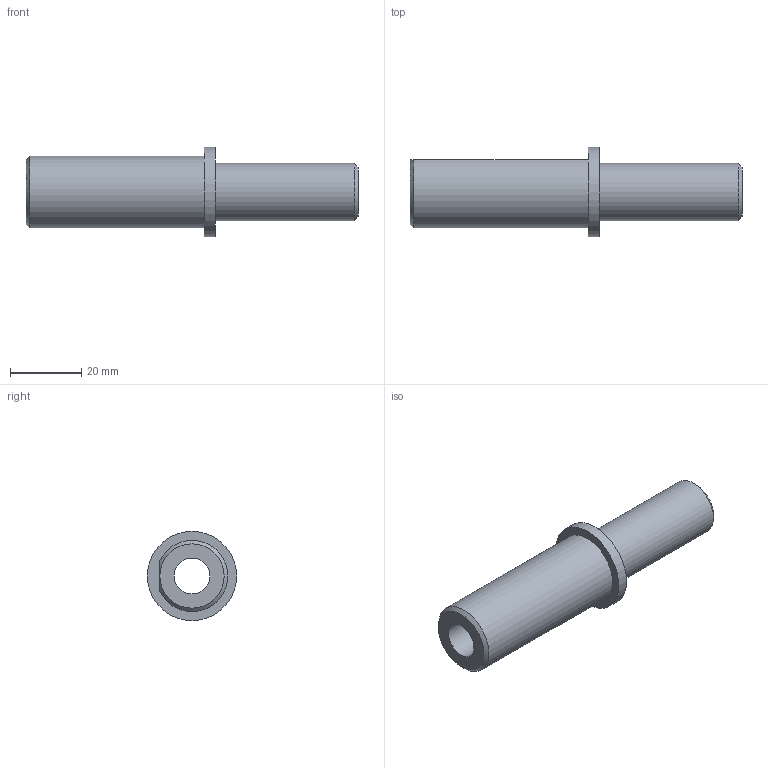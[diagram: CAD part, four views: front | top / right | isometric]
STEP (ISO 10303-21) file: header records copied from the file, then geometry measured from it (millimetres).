
FILE_DESCRIPTION( ( 'Unknown' ), '1' );
FILE_NAME( 'F:/navkite transat/construction/2016/3D ET ASSEMBLAGES/AMI/AMI 06.stp', 'Unknown', ( 'GMA' ), ( 'Unknown' ), 'XStep 1.0', 'Unknown', ' ' );
FILE_SCHEMA( ( 'automotive_design' ) );
Length unit declared in the file: millimetre
Products named in the file (1): 1
Bounding box: 93 x 25 x 25 mm (x, y, z)
Volume: 17574.3 mm3; surface area: 9053.8 mm2
Topology: 1 solids, 1 shells, 11 faces, 21 edges, 14 vertices
Faces by surface type: plane 5, cylinder 4, cone 2
Full cylindrical faces by diameter (mm): 10 x1, 16 x1, 25 x1
Entity records: 367 total; most frequent: CARTESIAN_POINT 55, DIRECTION 47, ORIENTED_EDGE 30, AXIS2_PLACEMENT_3D 22, EDGE_LOOP 19, EDGE_CURVE 15, FACE_OUTER_BOUND 14, VERTEX_POINT 12
